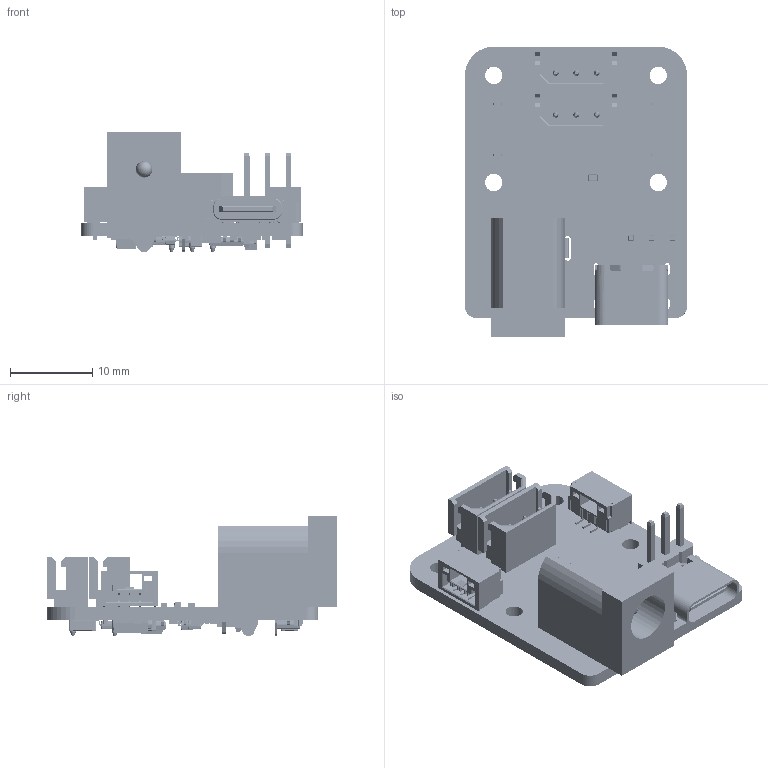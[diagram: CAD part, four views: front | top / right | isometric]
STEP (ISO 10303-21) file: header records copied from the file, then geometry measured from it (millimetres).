
FILE_DESCRIPTION(/* description */ ('Designed by EasyEDA Pro'),/* implementation_level */ '2;1');
FILE_NAME(/* name */ 'TTL_Adapter_(A).step',/* time_stamp */ '2025-10-18T19:08:19+08:00',/* author */ (''),/* organization */ (''),/* preprocessor_version */ 'ST-DEVELOPER v20.1',/* originating_system */ 'Autodesk Translation Framework v14.17.0.0',/* authorisation */ '');
FILE_SCHEMA (('AUTOMOTIVE_DESIGN { 1 0 10303 214 3 1 1 }'));
Products named in the file (44): EasyEDA PCB Model~hTBf; Board~hTBf; U5~SOT-89-3_L4.5-W2.5-P1.50-LS4.2-BR~SOT-89-3_L4.3-W2.5-H1.6-LS4.1-P1.
50~hTBf; SOT-89-3_L4.5-W2.5-P1.50-LS4.2-BR~SOT-89-3_L4.3-W2.5-H1.6-LS4.1-P1.50
~hTBf; C14~CASE-A_3216~CASE-A_3216~hTBf; CASE-A_3216~CASE-A_3216~hTBf; R7~R0402~R0402_L1.0-W0.5-H0.5~hTBf; R0402~R0402_L1.0-W0.5-H0.5~hTBf; UART~HDR-TH_3P-P2.54-V-M-1~HDR-M-2.54_1x3~hTBf; HDR-TH_3P-P2.54-V-M-1~HDR-M-2.54_1x3~hTBf; C8~C1206~C1206_L3.2-W1.6-H1.3~hTBf; C1206~C1206_L3.2-W1.6-H1.3~hTBf; DC1~DC-IN-TH_G-SWITCH_DC-005H-D020~DC-IN-TH_G-SWITCH_DC-005H-D020~hTB
f; DC-IN-TH_G-SWITCH_DC-005H-D020~DC-IN-TH_G-SWITCH_DC-005H-D020~hTBf; U1~TQFN-16_L3.0-W3.0-P0.50-BL-EP1.7~TQFN-16_L3.0-W3.0-P0.50-BL-EP1.7~
hTBf; TQFN-16_L3.0-W3.0-P0.50-BL-EP1.7~TQFN-16_L3.0-W3.0-P0.50-BL-EP1.7~hTB
f; U4~VSSOP-8_L2.3-W2.0-P0.50-LS3.1-BR~VSSOP-8_L2.3-W2.0-P0.50-LS3.1-BL~
hTBf; VSSOP-8_L2.3-W2.0-P0.50-LS3.1-BR~VSSOP-8_L2.3-W2.0-P0.50-LS3.1-BL~hTB
f; USB~USB-C-SMD_TYPE-C-6PIN-2MD-073~USB-C-SMD_TYPE-C-6PIN-2MD-073~hTBf; USB-C-SMD_TYPE-C-6PIN-2MD-073~USB-C-SMD_TYPE-C-6PIN-2MD-073~hTBf; U2~LED-SMD_4P-L1.6-W0.8-TL-RD-1~LED-SMD_4P-L1.6-W0.8-H0.6-TR-RD~hTBf; LED-SMD_4P-L1.6-W0.8-TL-RD-1~LED-SMD_4P-L1.6-W0.8-H0.6-TR-RD~hTBf; R1~R0603~R0603~hTBf; R0603~R0603~hTBf; F1~F0603~F0603_L1.7-W0.9-H0.7~hTBf; F0603~F0603_L1.7-W0.9-H0.7~hTBf; R2~R0402~R0402_L1.0-W0.5-H0.4~hTBf; R0402~R0402_L1.0-W0.5-H0.4~hTBf; C2~C0402~C0402_L1.0-W0.5-H0.5~hTBf; C0402~C0402_L1.0-W0.5-H0.5~hTBf; D3~SOT-23-3_L2.9-W1.6-P1.90-LS2.8-BR~SOT-23-3L_L2.9-W1.6-H1.1-LS2.8-P
0.95~hTBf; SOT-23-3_L3.0-W1.7-P0.95-LS2.9-BR~SOT-23-3L_L2.9-W1.6-H1.1-LS2.8-P0.9
5~hTBf; C11~C0805~C0805_L2.0-W1.3-H1.3~hTBf; C0805~C0805_L2.0-W1.3-H1.3~hTBf; CN2~CONN-SMD_3P-P1.25_BX-GH1.25-3PWT~CONN-SMD_3P-P1.25_BX-GH1.25-3PWT
~hTBf; CONN-SMD_3P-P1.25_BX-GH1.25-3PWT~CONN-SMD_3P-P1.25_BX-GH1.25-3PWT~hTB
f; CN1~CONN-TH_5264-3A_C2839661~CONN-TH_5264-3A_C2839661~hTBf; CONN-TH_5264-3A_C2839661~CONN-TH_5264-3A_C2839661~hTBf; D1~DFN1006-2L-BI~DFN1006-2L-BI~hTBf; DFN1006-2L-BI~DFN1006-2L-BI~hTBf ...
Assembly tree (68 placements, depth 3):
  EasyEDA PCB Model~hTBf
    Board~hTBf
    R1~R0603~R0603~hTBf  x8
      R0603~R0603~hTBf
    F1~F0603~F0603_L1.7-W0.9-H0.7~hTBf  x2
      F0603~F0603_L1.7-W0.9-H0.7~hTBf
    R2~R0402~R0402_L1.0-W0.5-H0.4~hTBf  x2
      R0402~R0402_L1.0-W0.5-H0.4~hTBf
    C2~C0402~C0402_L1.0-W0.5-H0.5~hTBf  x10
      C0402~C0402_L1.0-W0.5-H0.5~hTBf
    U5~SOT-89-3_L4.5-W2.5-P1.50-LS4.2-BR~SOT-89-3_L4.3-W2.5-H1.6-LS4.1-P1.
50~hTBf
      SOT-89-3_L4.5-W2.5-P1.50-LS4.2-BR~SOT-89-3_L4.3-W2.5-H1.6-LS4.1-P1.50
~hTBf
    C14~CASE-A_3216~CASE-A_3216~hTBf
      CASE-A_3216~CASE-A_3216~hTBf
    R7~R0402~R0402_L1.0-W0.5-H0.5~hTBf
      R0402~R0402_L1.0-W0.5-H0.5~hTBf
    D3~SOT-23-3_L2.9-W1.6-P1.90-LS2.8-BR~SOT-23-3L_L2.9-W1.6-H1.1-LS2.8-P
0.95~hTBf  x2
      SOT-23-3_L3.0-W1.7-P0.95-LS2.9-BR~SOT-23-3L_L2.9-W1.6-H1.1-LS2.8-P0.9
5~hTBf
    UART~HDR-TH_3P-P2.54-V-M-1~HDR-M-2.54_1x3~hTBf
      HDR-TH_3P-P2.54-V-M-1~HDR-M-2.54_1x3~hTBf
    C8~C1206~C1206_L3.2-W1.6-H1.3~hTBf
      C1206~C1206_L3.2-W1.6-H1.3~hTBf
    C11~C0805~C0805_L2.0-W1.3-H1.3~hTBf  x2
      C0805~C0805_L2.0-W1.3-H1.3~hTBf
    CN2~CONN-SMD_3P-P1.25_BX-GH1.25-3PWT~CONN-SMD_3P-P1.25_BX-GH1.25-3PWT
~hTBf  x2
      CONN-SMD_3P-P1.25_BX-GH1.25-3PWT~CONN-SMD_3P-P1.25_BX-GH1.25-3PWT~hTB
f
    CN1~CONN-TH_5264-3A_C2839661~CONN-TH_5264-3A_C2839661~hTBf  x2
      CONN-TH_5264-3A_C2839661~CONN-TH_5264-3A_C2839661~hTBf
    D1~DFN1006-2L-BI~DFN1006-2L-BI~hTBf  x2
      DFN1006-2L-BI~DFN1006-2L-BI~hTBf
    DC1~DC-IN-TH_G-SWITCH_DC-005H-D020~DC-IN-TH_G-SWITCH_DC-005H-D020~hTB
f
      DC-IN-TH_G-SWITCH_DC-005H-D020~DC-IN-TH_G-SWITCH_DC-005H-D020~hTBf
    U1~TQFN-16_L3.0-W3.0-P0.50-BL-EP1.7~TQFN-16_L3.0-W3.0-P0.50-BL-EP1.7~
hTBf
      TQFN-16_L3.0-W3.0-P0.50-BL-EP1.7~TQFN-16_L3.0-W3.0-P0.50-BL-EP1.7~hTB
f
    U4~VSSOP-8_L2.3-W2.0-P0.50-LS3.1-BR~VSSOP-8_L2.3-W2.0-P0.50-LS3.1-BL~
hTBf
      VSSOP-8_L2.3-W2.0-P0.50-LS3.1-BR~VSSOP-8_L2.3-W2.0-P0.50-LS3.1-BL~hTB
f
    USB~USB-C-SMD_TYPE-C-6PIN-2MD-073~USB-C-SMD_TYPE-C-6PIN-2MD-073~hTBf
      USB-C-SMD_TYPE-C-6PIN-2MD-073~USB-C-SMD_TYPE-C-6PIN-2MD-073~hTBf
    U2~LED-SMD_4P-L1.6-W0.8-TL-RD-1~LED-SMD_4P-L1.6-W0.8-H0.6-TR-RD~hTBf
      LED-SMD_4P-L1.6-W0.8-TL-RD-1~LED-SMD_4P-L1.6-W0.8-H0.6-TR-RD~hTBf
    D4~SOT-23_L2.9-W1.3-P1.90-LS2.4-BR~SOT-23-3P_L2.9-W1.3-H1.0-LS2.4-P0.
95~hTBf  x2
      SOT-23_L2.9-W1.3-P1.90-LS2.4-BR~SOT-23-3P_L2.9-W1.3-H1.0-LS2.4-P0.95~
hTBf
    U3~SOT-23-5_L3.0-W1.7-P0.95-LS2.8-BR~SOT-23-5_L2.9-W1.6-H1.1-LS2.8-P0.
95~hTBf  x2
      SOT-23-5_L3.0-W1.7-P0.95-LS2.8-BR~SOT-23-5_L2.9-W1.6-H1.1-LS2.8-P0.95
~hTBf
Bounding box: 26.97 x 35.3 x 14.5 mm (x, y, z)
Volume: 3136.9 mm3; surface area: 5789.6 mm2
Topology: 205 solids, 205 shells, 15875 faces, 42365 edges, 27694 vertices
Faces by surface type: plane 9327, bspline 4707, cylinder 1461, sphere 233, torus 129, cone 18
Full cylindrical faces by diameter (mm): 0.2 x1, 0.24 x2, 0.25 x4, 0.261 x1, 0.5 x2, 0.7 x14, 0.75 x6, 0.9 x3, 1.8 x1, 2 x1, 2.1 x4, 2.4 x1, 5.8 x1
Entity records: 261587 total; most frequent: CARTESIAN_POINT 78493, ORIENTED_EDGE 39570, DIRECTION 30845, EDGE_CURVE 19785, LINE 13911, VECTOR 13911, VERTEX_POINT 13012, AXIS2_PLACEMENT_3D 8467
